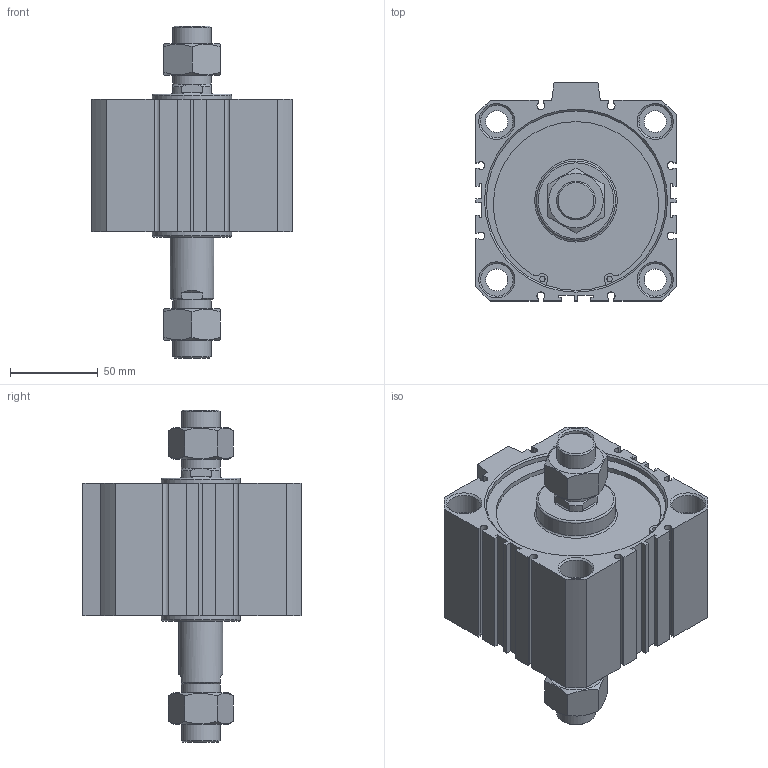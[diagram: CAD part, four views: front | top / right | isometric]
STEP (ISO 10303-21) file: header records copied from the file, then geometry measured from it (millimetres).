
FILE_DESCRIPTION((''),'2;1');
FILE_NAME('I:\3D電子目錄\氣缸\JDD\JDD-B\JDD100-B\JDD100x30-B.stp','2007-02-27T13:23:08',('662F206'),(''),'Autodesk Inventor 10','Autodesk Inventor 10','');
FILE_SCHEMA(('AUTOMOTIVE_DESIGN { 1 0 10303 214 1 1 1 1 }'));
Length unit declared in the file: millimetre
Products named in the file (3): JDD100-B; R 形環 100
Assembly tree (3 placements, depth 2):
  JDD100-B
    JDD100-B
    R 形環 100  x2
Bounding box: 114 x 124 x 188.7 mm (x, y, z)
Volume: 883909.1 mm3; surface area: 115909 mm2
Topology: 3 solids, 3 shells, 219 faces, 538 edges, 351 vertices
Faces by surface type: plane 130, cylinder 59, cone 26, bspline 2, torus 2
Full cylindrical faces by diameter (mm): 3.1 x4, 3.5 x2, 12.5 x4, 18.5 x8, 22 x4, 25 x1, 45 x2, 102 x4, 106 x2
Entity records: 5905 total; most frequent: CARTESIAN_POINT 1143, DIRECTION 978, ORIENTED_EDGE 894, EDGE_CURVE 447, AXIS2_PLACEMENT_3D 356, VERTEX_POINT 323, EDGE_LOOP 298, VECTOR 266
